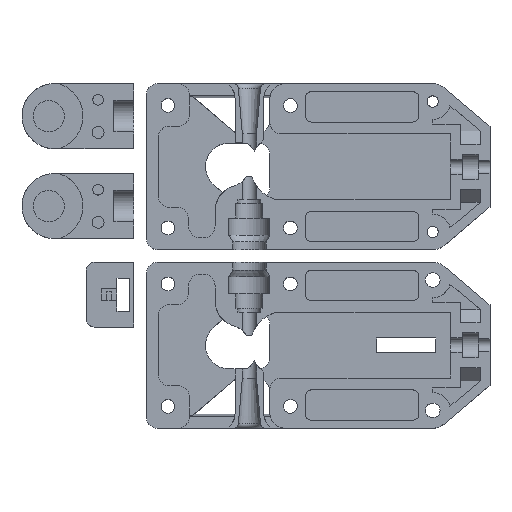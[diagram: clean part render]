
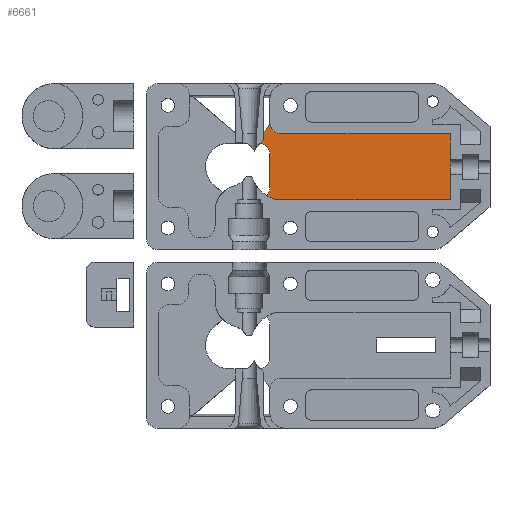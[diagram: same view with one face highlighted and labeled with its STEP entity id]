
A CAD part, top view. The second image highlights one B-rep face of the part: STEP entity #6661.
In plain terms, the highlighted planar face has unit normal (0, 0, 1) as drawn and (0, 0, -1) by its records, which use the part's own axes.
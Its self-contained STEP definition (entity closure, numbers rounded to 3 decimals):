
#968=LINE('',#11206,#1645);
#975=LINE('',#11218,#1652);
#1017=LINE('',#11370,#1694);
#1045=LINE('',#11467,#1722);
#1046=LINE('',#11469,#1723);
#1047=LINE('',#11474,#1724);
#1645=VECTOR('',#8863,2.034);
#1652=VECTOR('',#8874,44.252);
#1694=VECTOR('',#8986,0.7);
#1722=VECTOR('',#9080,16.6);
#1723=VECTOR('',#9081,42.71);
#1724=VECTOR('',#9088,8.3);
#1947=PLANE('',#7264);
#2245=FACE_OUTER_BOUND('',#2647,.T.);
#2647=EDGE_LOOP('',(#6102,#6103,#6104,#6105,#6106,#6107,#6108,#6109,#6110,
#6111,#6112,#6113));
#2953=CIRCLE('',#7261,8.6);
#2954=CIRCLE('',#7263,3.);
#2955=CIRCLE('',#7265,8.6);
#2956=CIRCLE('',#7266,3.);
#2957=CIRCLE('',#7267,4.);
#2958=CIRCLE('',#7268,3.);
#3526=VERTEX_POINT('',#11203);
#3527=VERTEX_POINT('',#11205);
#3529=VERTEX_POINT('',#11214);
#3530=VERTEX_POINT('',#11216);
#3556=VERTEX_POINT('',#11367);
#3557=VERTEX_POINT('',#11369);
#3573=VERTEX_POINT('',#11437);
#3575=VERTEX_POINT('',#11459);
#3576=VERTEX_POINT('',#11461);
#3577=VERTEX_POINT('',#11466);
#3578=VERTEX_POINT('',#11468);
#3579=VERTEX_POINT('',#11472);
#4353=EDGE_CURVE('',#3526,#3527,#968,.T.);
#4360=EDGE_CURVE('',#3530,#3529,#975,.T.);
#4413=EDGE_CURVE('',#3556,#3557,#1017,.T.);
#4446=EDGE_CURVE('',#3526,#3573,#2953,.T.);
#4451=EDGE_CURVE('',#3576,#3575,#2954,.T.);
#4453=EDGE_CURVE('',#3529,#3575,#2955,.T.);
#4454=EDGE_CURVE('',#3530,#3577,#1045,.T.);
#4455=EDGE_CURVE('',#3578,#3577,#1046,.T.);
#4456=EDGE_CURVE('',#3557,#3578,#2956,.F.);
#4457=EDGE_CURVE('',#3527,#3556,#2957,.F.);
#4458=EDGE_CURVE('',#3573,#3579,#2958,.T.);
#4459=EDGE_CURVE('',#3579,#3576,#1047,.T.);
#6102=ORIENTED_EDGE('',*,*,#4453,.F.);
#6103=ORIENTED_EDGE('',*,*,#4360,.F.);
#6104=ORIENTED_EDGE('',*,*,#4454,.T.);
#6105=ORIENTED_EDGE('',*,*,#4455,.F.);
#6106=ORIENTED_EDGE('',*,*,#4456,.F.);
#6107=ORIENTED_EDGE('',*,*,#4413,.F.);
#6108=ORIENTED_EDGE('',*,*,#4457,.F.);
#6109=ORIENTED_EDGE('',*,*,#4353,.F.);
#6110=ORIENTED_EDGE('',*,*,#4446,.T.);
#6111=ORIENTED_EDGE('',*,*,#4458,.T.);
#6112=ORIENTED_EDGE('',*,*,#4459,.T.);
#6113=ORIENTED_EDGE('',*,*,#4451,.T.);
#6661=ADVANCED_FACE('',(#2245),#1947,.F.);
#7261=AXIS2_PLACEMENT_3D('',#11438,#9066,#9067);
#7263=AXIS2_PLACEMENT_3D('',#11462,#9073,#9074);
#7264=AXIS2_PLACEMENT_3D('',#11464,#9076,#9077);
#7265=AXIS2_PLACEMENT_3D('',#11465,#9078,#9079);
#7266=AXIS2_PLACEMENT_3D('',#11470,#9082,#9083);
#7267=AXIS2_PLACEMENT_3D('',#11471,#9084,#9085);
#7268=AXIS2_PLACEMENT_3D('',#11473,#9086,#9087);
#8863=DIRECTION('',(0.,-1.,0.));
#8874=DIRECTION('',(-1.,0.,0.));
#8986=DIRECTION('',(0.,1.,0.));
#9066=DIRECTION('center_axis',(0.,0.,-1.));
#9067=DIRECTION('ref_axis',(1.,0.,0.));
#9073=DIRECTION('center_axis',(0.,0.,1.));
#9074=DIRECTION('ref_axis',(1.,0.,0.));
#9076=DIRECTION('center_axis',(0.,0.,1.));
#9077=DIRECTION('ref_axis',(1.,0.,0.));
#9078=DIRECTION('center_axis',(0.,0.,1.));
#9079=DIRECTION('ref_axis',(0.262,-0.965,0.));
#9080=DIRECTION('',(0.,-1.,0.));
#9081=DIRECTION('',(1.,0.,0.));
#9082=DIRECTION('center_axis',(0.,0.,1.));
#9083=DIRECTION('ref_axis',(1.,0.,0.));
#9084=DIRECTION('center_axis',(0.,0.,1.));
#9085=DIRECTION('ref_axis',(1.,0.,0.));
#9086=DIRECTION('center_axis',(0.,0.,1.));
#9087=DIRECTION('ref_axis',(1.,0.,0.));
#9088=DIRECTION('',(0.,1.,0.));
#11203=CARTESIAN_POINT('',(8.734,-6.799,-3.6));
#11205=CARTESIAN_POINT('',(8.734,-8.834,-3.6));
#11206=CARTESIAN_POINT('',(8.734,-6.799,-3.6));
#11214=CARTESIAN_POINT('',(11.748,8.3,-3.6));
#11216=CARTESIAN_POINT('',(56.,8.3,-3.6));
#11218=CARTESIAN_POINT('',(56.,8.3,-3.6));
#11367=CARTESIAN_POINT('',(10.29,-12.,-3.6));
#11369=CARTESIAN_POINT('',(10.29,-11.3,-3.6));
#11370=CARTESIAN_POINT('',(10.29,-12.,-3.6));
#11437=CARTESIAN_POINT('',(7.802,-5.962,-3.6));
#11438=CARTESIAN_POINT('Origin',(14.,0.,-3.6));
#11459=CARTESIAN_POINT('',(9.522,7.342,-3.6));
#11461=CARTESIAN_POINT('',(10.325,5.3,-3.6));
#11462=CARTESIAN_POINT('Origin',(7.325,5.3,-3.6));
#11464=CARTESIAN_POINT('Origin',(0.,0.,-3.6));
#11465=CARTESIAN_POINT('Origin',(14.,0.,-3.6));
#11466=CARTESIAN_POINT('',(56.,-8.3,-3.6));
#11467=CARTESIAN_POINT('',(56.,8.3,-3.6));
#11468=CARTESIAN_POINT('',(13.29,-8.3,-3.6));
#11469=CARTESIAN_POINT('',(13.29,-8.3,-3.6));
#11470=CARTESIAN_POINT('Origin',(13.29,-11.3,-3.6));
#11471=CARTESIAN_POINT('Origin',(6.29,-12.,-3.6));
#11472=CARTESIAN_POINT('',(10.325,-3.,-3.6));
#11473=CARTESIAN_POINT('Origin',(7.325,-3.,-3.6));
#11474=CARTESIAN_POINT('',(10.325,-3.,-3.6));
